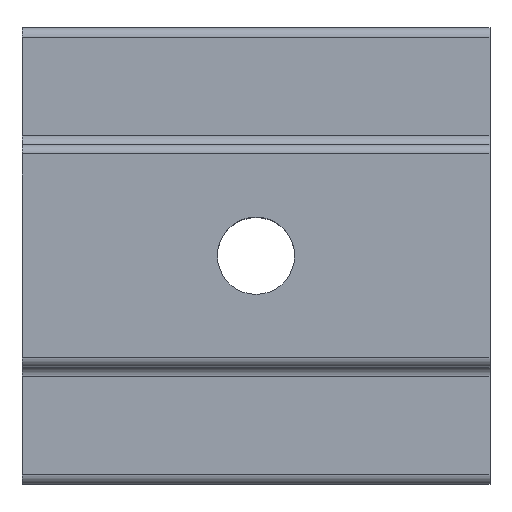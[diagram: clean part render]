
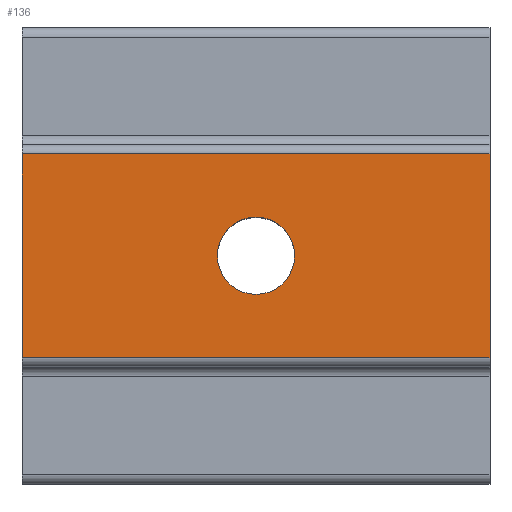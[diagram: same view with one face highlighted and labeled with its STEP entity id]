
A CAD part, top view. The second image highlights one B-rep face of the part: STEP entity #136.
In plain terms, the highlighted planar face has unit normal (0, 0, 1).
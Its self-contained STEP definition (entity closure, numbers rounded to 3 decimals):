
#19 = FACE_OUTER_BOUND ( 'NONE', #260, .T. ) ;
#32 = CARTESIAN_POINT ( 'NONE',  ( 10., -4.35, 0. ) ) ;
#33 = VERTEX_POINT ( 'NONE', #673 ) ;
#54 = AXIS2_PLACEMENT_3D ( 'NONE', #622, #125, #572 ) ;
#56 = VERTEX_POINT ( 'NONE', #341 ) ;
#64 = VECTOR ( 'NONE', #95, 1000. ) ;
#95 = DIRECTION ( 'NONE',  ( 0., -1., 0. ) ) ;
#102 = VECTOR ( 'NONE', #510, 1000. ) ;
#125 = DIRECTION ( 'NONE',  ( 0., 0., 1. ) ) ;
#136 = ADVANCED_FACE ( 'NONE', ( #19, #562 ), #234, .F. ) ;
#137 = DIRECTION ( 'NONE',  ( 0., 0., 1. ) ) ;
#145 = EDGE_CURVE ( 'NONE', #176, #288, #672, .T. ) ;
#147 = CIRCLE ( 'NONE', #556, 1.65 ) ;
#156 = EDGE_CURVE ( 'NONE', #203, #56, #298, .T. ) ;
#176 = VERTEX_POINT ( 'NONE', #307 ) ;
#182 = VECTOR ( 'NONE', #628, 1000. ) ;
#192 = ORIENTED_EDGE ( 'NONE', *, *, #145, .F. ) ;
#198 = LINE ( 'NONE', #412, #182 ) ;
#203 = VERTEX_POINT ( 'NONE', #32 ) ;
#205 = CARTESIAN_POINT ( 'NONE',  ( 10., 4.35, 0. ) ) ;
#220 = LINE ( 'NONE', #442, #102 ) ;
#227 = VERTEX_POINT ( 'NONE', #205 ) ;
#234 = PLANE ( 'NONE',  #696 ) ;
#246 = EDGE_CURVE ( 'NONE', #33, #227, #198, .T. ) ;
#260 = EDGE_LOOP ( 'NONE', ( #321, #296, #380, #429 ) ) ;
#283 = EDGE_CURVE ( 'NONE', #227, #203, #479, .T. ) ;
#288 = VERTEX_POINT ( 'NONE', #433 ) ;
#295 = DIRECTION ( 'NONE',  ( 0., 0., -1. ) ) ;
#296 = ORIENTED_EDGE ( 'NONE', *, *, #283, .F. ) ;
#298 = LINE ( 'NONE', #483, #358 ) ;
#307 = CARTESIAN_POINT ( 'NONE',  ( -1.65, 0., 0. ) ) ;
#321 = ORIENTED_EDGE ( 'NONE', *, *, #156, .F. ) ;
#341 = CARTESIAN_POINT ( 'NONE',  ( -10., -4.35, 0. ) ) ;
#354 = ORIENTED_EDGE ( 'NONE', *, *, #586, .F. ) ;
#356 = EDGE_CURVE ( 'NONE', #33, #56, #220, .T. ) ;
#358 = VECTOR ( 'NONE', #577, 1000. ) ;
#380 = ORIENTED_EDGE ( 'NONE', *, *, #246, .F. ) ;
#412 = CARTESIAN_POINT ( 'NONE',  ( 10., 4.35, 0. ) ) ;
#423 = CARTESIAN_POINT ( 'NONE',  ( 10., 4.35, 0. ) ) ;
#429 = ORIENTED_EDGE ( 'NONE', *, *, #356, .T. ) ;
#433 = CARTESIAN_POINT ( 'NONE',  ( 1.65, 0., 0. ) ) ;
#442 = CARTESIAN_POINT ( 'NONE',  ( -10., 4.35, 0. ) ) ;
#479 = LINE ( 'NONE', #423, #64 ) ;
#483 = CARTESIAN_POINT ( 'NONE',  ( 10., -4.35, 0. ) ) ;
#506 = DIRECTION ( 'NONE',  ( 0., 1., 0. ) ) ;
#510 = DIRECTION ( 'NONE',  ( 0., -1., 0. ) ) ;
#556 = AXIS2_PLACEMENT_3D ( 'NONE', #636, #137, #644 ) ;
#562 = FACE_BOUND ( 'NONE', #623, .T. ) ;
#572 = DIRECTION ( 'NONE',  ( 1., 0., 0. ) ) ;
#577 = DIRECTION ( 'NONE',  ( -1., 0., 0. ) ) ;
#586 = EDGE_CURVE ( 'NONE', #288, #176, #147, .T. ) ;
#622 = CARTESIAN_POINT ( 'NONE',  ( 0., 0., 0. ) ) ;
#623 = EDGE_LOOP ( 'NONE', ( #354, #192 ) ) ;
#626 = CARTESIAN_POINT ( 'NONE',  ( 10., 4.35, 0. ) ) ;
#628 = DIRECTION ( 'NONE',  ( 1., 0., 0. ) ) ;
#636 = CARTESIAN_POINT ( 'NONE',  ( 0., 0., 0. ) ) ;
#644 = DIRECTION ( 'NONE',  ( 1., 0., 0. ) ) ;
#672 = CIRCLE ( 'NONE', #54, 1.65 ) ;
#673 = CARTESIAN_POINT ( 'NONE',  ( -10., 4.35, 0. ) ) ;
#696 = AXIS2_PLACEMENT_3D ( 'NONE', #626, #295, #506 ) ;
